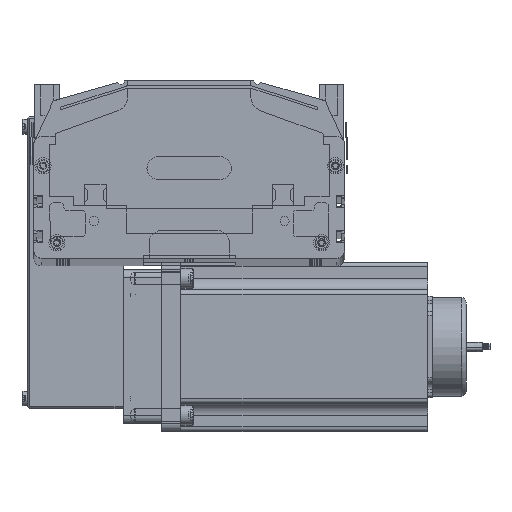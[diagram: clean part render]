
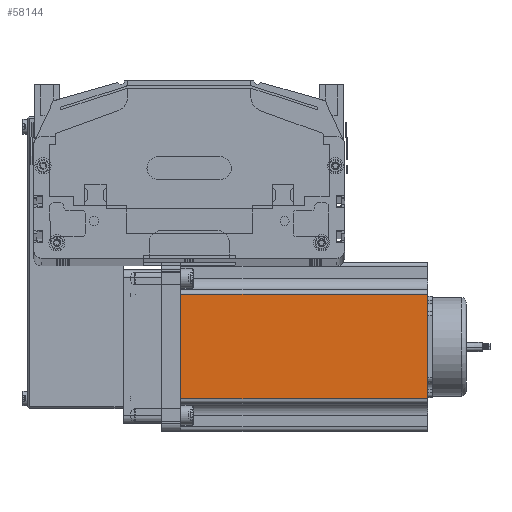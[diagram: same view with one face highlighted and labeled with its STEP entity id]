
A CAD part, top view. The second image highlights one B-rep face of the part: STEP entity #58144.
In plain terms, the highlighted planar face has unit normal (0, 0, 1) as drawn and (0, -1, 0) by its records, which use the part's own axes.
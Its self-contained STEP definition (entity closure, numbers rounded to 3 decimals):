
#58041 = VERTEX_POINT ( 'NONE', #67037 ) ;
#58042 = EDGE_LOOP ( 'NONE', ( #58146, #58153, #58082, #58156 ) ) ;
#58082 = ORIENTED_EDGE ( 'NONE', *, *, #58154, .F. ) ;
#58092 = VERTEX_POINT ( 'NONE', #67192 ) ;
#58100 = EDGE_CURVE ( 'NONE', #58118, #58041, #67297, .T. ) ;
#58115 = EDGE_CURVE ( 'NONE', #58041, #58092, #67347, .T. ) ;
#58118 = VERTEX_POINT ( 'NONE', #67355 ) ;
#58144 = ADVANCED_FACE ( 'NONE', ( #67378 ), #67408, .F. ) ;
#58145 = VERTEX_POINT ( 'NONE', #67374 ) ;
#58146 = ORIENTED_EDGE ( 'NONE', *, *, #58100, .T. ) ;
#58153 = ORIENTED_EDGE ( 'NONE', *, *, #58115, .T. ) ;
#58154 = EDGE_CURVE ( 'NONE', #58145, #58092, #67471, .T. ) ;
#58155 = EDGE_CURVE ( 'NONE', #58145, #58118, #67372, .T. ) ;
#58156 = ORIENTED_EDGE ( 'NONE', *, *, #58155, .T. ) ;
#67037 = CARTESIAN_POINT ( 'NONE',  ( 88.952, 0., 0. ) ) ;
#67192 = CARTESIAN_POINT ( 'NONE',  ( 88.952, 0., 160.5 ) ) ;
#67273 = DIRECTION ( 'NONE',  ( 1., 0., 0. ) ) ;
#67274 = VECTOR ( 'NONE', #67273, 1000. ) ;
#67296 = CARTESIAN_POINT ( 'NONE',  ( 0., 0., 0. ) ) ;
#67297 = LINE ( 'NONE', #67296, #67274 ) ;
#67319 = DIRECTION ( 'NONE',  ( 0., 0., 1. ) ) ;
#67321 = VECTOR ( 'NONE', #67319, 1000. ) ;
#67323 = CARTESIAN_POINT ( 'NONE',  ( 88.952, 0., 160.5 ) ) ;
#67347 = LINE ( 'NONE', #67323, #67321 ) ;
#67355 = CARTESIAN_POINT ( 'NONE',  ( 21.048, 0., 0. ) ) ;
#67372 = LINE ( 'NONE', #67466, #67465 ) ;
#67374 = CARTESIAN_POINT ( 'NONE',  ( 21.048, 0., 160.5 ) ) ;
#67378 = FACE_OUTER_BOUND ( 'NONE', #58042, .T. ) ;
#67387 = DIRECTION ( 'NONE',  ( 0., 1., 0. ) ) ;
#67393 = CARTESIAN_POINT ( 'NONE',  ( 0., 0., 160.5 ) ) ;
#67403 = AXIS2_PLACEMENT_3D ( 'NONE', #67393, #67387, #67491 ) ;
#67408 = PLANE ( 'NONE',  #67403 ) ;
#67464 = DIRECTION ( 'NONE',  ( 0., 0., -1. ) ) ;
#67465 = VECTOR ( 'NONE', #67464, 1000. ) ;
#67466 = CARTESIAN_POINT ( 'NONE',  ( 21.048, 0., 160.5 ) ) ;
#67468 = DIRECTION ( 'NONE',  ( 1., 0., 0. ) ) ;
#67469 = VECTOR ( 'NONE', #67468, 1000. ) ;
#67470 = CARTESIAN_POINT ( 'NONE',  ( 0., 0., 160.5 ) ) ;
#67471 = LINE ( 'NONE', #67470, #67469 ) ;
#67491 = DIRECTION ( 'NONE',  ( 0., 0., 1. ) ) ;
